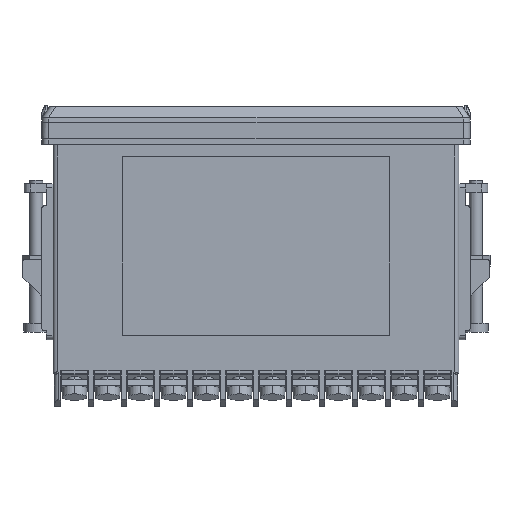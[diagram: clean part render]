
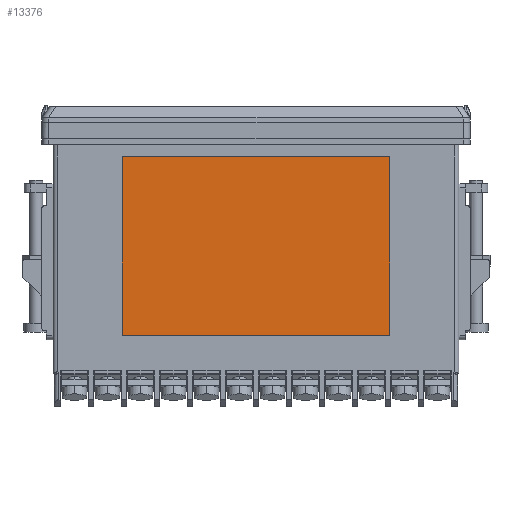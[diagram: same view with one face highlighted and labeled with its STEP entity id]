
A CAD part, left-side view. The second image highlights one B-rep face of the part: STEP entity #13376.
In plain terms, the highlighted planar face has unit normal (-1, 0, 0).
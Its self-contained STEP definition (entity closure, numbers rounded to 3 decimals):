
#686 = EDGE_LOOP ( 'NONE', ( #22272, #39401, #33056, #39377 ) ) ;
#1549 = AXIS2_PLACEMENT_3D ( 'NONE', #15244, #36368, #11124 ) ;
#2589 = PLANE ( 'NONE',  #1549 ) ;
#3869 = LINE ( 'NONE', #9020, #25158 ) ;
#6134 = CARTESIAN_POINT ( 'NONE',  ( -22., 30., -44. ) ) ;
#8838 = CARTESIAN_POINT ( 'NONE',  ( -22., -30., -4. ) ) ;
#9020 = CARTESIAN_POINT ( 'NONE',  ( -22., -30., -44. ) ) ;
#11062 = LINE ( 'NONE', #22332, #54752 ) ;
#11124 = DIRECTION ( 'NONE',  ( 0., 0., -1. ) ) ;
#11544 = EDGE_CURVE ( 'NONE', #47986, #53248, #3869, .T. ) ;
#12223 = LINE ( 'NONE', #6134, #22203 ) ;
#12328 = VERTEX_POINT ( 'NONE', #27504 ) ;
#13376 = ADVANCED_FACE ( 'NONE', ( #27660 ), #2589, .F. ) ;
#13966 = DIRECTION ( 'NONE',  ( 0., -1., 0. ) ) ;
#14887 = DIRECTION ( 'NONE',  ( 0., 0., -1. ) ) ;
#15244 = CARTESIAN_POINT ( 'NONE',  ( -22., 0., 0. ) ) ;
#16257 = LINE ( 'NONE', #45367, #47356 ) ;
#16683 = CARTESIAN_POINT ( 'NONE',  ( -22., -30., -44. ) ) ;
#18095 = EDGE_CURVE ( 'NONE', #53248, #12328, #16257, .T. ) ;
#22203 = VECTOR ( 'NONE', #14887, 1000. ) ;
#22272 = ORIENTED_EDGE ( 'NONE', *, *, #18095, .T. ) ;
#22332 = CARTESIAN_POINT ( 'NONE',  ( -22., -30., -44. ) ) ;
#22368 = CARTESIAN_POINT ( 'NONE',  ( -22., 30., -44. ) ) ;
#25158 = VECTOR ( 'NONE', #51221, 1000. ) ;
#27504 = CARTESIAN_POINT ( 'NONE',  ( -22., 30., -4. ) ) ;
#27660 = FACE_OUTER_BOUND ( 'NONE', #686, .T. ) ;
#33056 = ORIENTED_EDGE ( 'NONE', *, *, #52262, .T. ) ;
#36368 = DIRECTION ( 'NONE',  ( 1., 0., 0. ) ) ;
#39377 = ORIENTED_EDGE ( 'NONE', *, *, #11544, .T. ) ;
#39401 = ORIENTED_EDGE ( 'NONE', *, *, #39487, .T. ) ;
#39487 = EDGE_CURVE ( 'NONE', #12328, #46594, #12223, .T. ) ;
#45367 = CARTESIAN_POINT ( 'NONE',  ( -22., -30., -4. ) ) ;
#46594 = VERTEX_POINT ( 'NONE', #22368 ) ;
#47356 = VECTOR ( 'NONE', #49625, 1000. ) ;
#47986 = VERTEX_POINT ( 'NONE', #16683 ) ;
#49625 = DIRECTION ( 'NONE',  ( 0., 1., 0. ) ) ;
#51221 = DIRECTION ( 'NONE',  ( 0., 0., 1. ) ) ;
#52262 = EDGE_CURVE ( 'NONE', #46594, #47986, #11062, .T. ) ;
#53248 = VERTEX_POINT ( 'NONE', #8838 ) ;
#54752 = VECTOR ( 'NONE', #13966, 1000. ) ;
